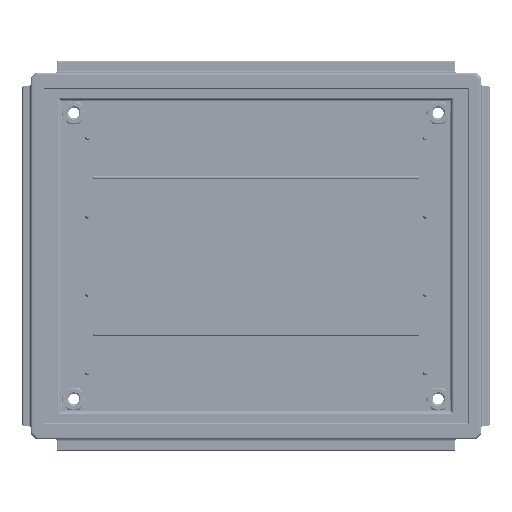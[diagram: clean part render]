
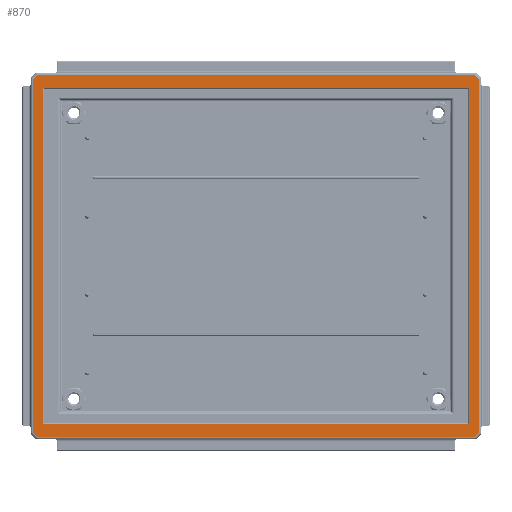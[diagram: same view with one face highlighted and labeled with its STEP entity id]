
A CAD part, front view. The second image highlights one B-rep face of the part: STEP entity #870.
In plain terms, the highlighted planar face has unit normal (0, -1, 0).
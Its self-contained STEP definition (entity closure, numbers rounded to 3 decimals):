
#870=ADVANCED_FACE('',(#28237,#28239),#28241,.T.);
#28237=FACE_BOUND('',#28238,.T.);
#28238=EDGE_LOOP('',(#99072,#99073,#99074,#99075,#99076,#99077,#99078,#99079));
#28239=FACE_BOUND('',#28240,.T.);
#28240=EDGE_LOOP('',(#99080,#99081,#99082,#99083));
#28241=PLANE('',#28242);
#28242=AXIS2_PLACEMENT_3D('',#28243,#28244,#28245);
#28243=CARTESIAN_POINT('',(262.2,0.,-564.9));
#28244=DIRECTION('',(0.,-1.,0.));
#28245=DIRECTION('',(0.,0.,1.));
#99072=ORIENTED_EDGE('',*,*,#140206,.F.);
#99073=ORIENTED_EDGE('',*,*,#140207,.F.);
#99074=ORIENTED_EDGE('',*,*,#140208,.T.);
#99075=ORIENTED_EDGE('',*,*,#140209,.T.);
#99076=ORIENTED_EDGE('',*,*,#140210,.F.);
#99077=ORIENTED_EDGE('',*,*,#140211,.T.);
#99078=ORIENTED_EDGE('',*,*,#140212,.T.);
#99079=ORIENTED_EDGE('',*,*,#140213,.F.);
#99080=ORIENTED_EDGE('',*,*,#140214,.T.);
#99081=ORIENTED_EDGE('',*,*,#140215,.T.);
#99082=ORIENTED_EDGE('',*,*,#140216,.F.);
#99083=ORIENTED_EDGE('',*,*,#140217,.T.);
#140206=EDGE_CURVE('',#161483,#161484,#161485,.T.);
#140207=EDGE_CURVE('',#161486,#161483,#161487,.T.);
#140208=EDGE_CURVE('',#161486,#161488,#161489,.T.);
#140209=EDGE_CURVE('',#161488,#161490,#161491,.T.);
#140210=EDGE_CURVE('',#161492,#161490,#161493,.T.);
#140211=EDGE_CURVE('',#161492,#161494,#161495,.T.);
#140212=EDGE_CURVE('',#161494,#161496,#161497,.T.);
#140213=EDGE_CURVE('',#161484,#161496,#161498,.T.);
#140214=EDGE_CURVE('',#161499,#161500,#161501,.T.);
#140215=EDGE_CURVE('',#161500,#161502,#161503,.T.);
#140216=EDGE_CURVE('',#161504,#161502,#161505,.T.);
#140217=EDGE_CURVE('',#161504,#161499,#161506,.T.);
#161483=VERTEX_POINT('',#198363);
#161484=VERTEX_POINT('',#198364);
#161485=LINE('',#198365,#198366);
#161486=VERTEX_POINT('',#198368);
#161487=LINE('',#198369,#198370);
#161488=VERTEX_POINT('',#198372);
#161489=LINE('',#198373,#198374);
#161490=VERTEX_POINT('',#198376);
#161491=LINE('',#198377,#198378);
#161492=VERTEX_POINT('',#198380);
#161493=LINE('',#198381,#198382);
#161494=VERTEX_POINT('',#198384);
#161495=LINE('',#198385,#198386);
#161496=VERTEX_POINT('',#198388);
#161497=LINE('',#198389,#198390);
#161498=LINE('',#198392,#198393);
#161499=VERTEX_POINT('',#198395);
#161500=VERTEX_POINT('',#198396);
#161501=LINE('',#198397,#198398);
#161502=VERTEX_POINT('',#198400);
#161503=LINE('',#198401,#198402);
#161504=VERTEX_POINT('',#198404);
#161505=LINE('',#198405,#198406);
#161506=LINE('',#198408,#198409);
#198363=CARTESIAN_POINT('',(166.716,0.,-3.1));
#198364=CARTESIAN_POINT('',(171.9,0.,-8.284));
#198365=CARTESIAN_POINT('',(166.716,0.,-3.1));
#198366=VECTOR('',#198367,1.);
#198367=DIRECTION('',(0.707,0.,-0.707));
#198368=CARTESIAN_POINT('',(-391.716,0.,-3.1));
#198369=CARTESIAN_POINT('',(-391.716,0.,-3.1));
#198370=VECTOR('',#198371,1.);
#198371=DIRECTION('',(1.,0.,0.));
#198372=CARTESIAN_POINT('',(-396.9,0.,-8.284));
#198373=CARTESIAN_POINT('',(-391.716,0.,-3.1));
#198374=VECTOR('',#198375,1.);
#198375=DIRECTION('',(-0.707,0.,-0.707));
#198376=CARTESIAN_POINT('',(-396.9,0.,-459.716));
#198377=CARTESIAN_POINT('',(-396.9,0.,-8.284));
#198378=VECTOR('',#198379,1.);
#198379=DIRECTION('',(0.,0.,-1.));
#198380=CARTESIAN_POINT('',(-391.716,0.,-464.9));
#198381=CARTESIAN_POINT('',(-391.716,0.,-464.9));
#198382=VECTOR('',#198383,1.);
#198383=DIRECTION('',(-0.707,0.,0.707));
#198384=CARTESIAN_POINT('',(166.716,0.,-464.9));
#198385=CARTESIAN_POINT('',(-391.716,0.,-464.9));
#198386=VECTOR('',#198387,1.);
#198387=DIRECTION('',(1.,0.,0.));
#198388=CARTESIAN_POINT('',(171.9,0.,-459.716));
#198389=CARTESIAN_POINT('',(166.716,0.,-464.9));
#198390=VECTOR('',#198391,1.);
#198391=DIRECTION('',(0.707,0.,0.707));
#198392=CARTESIAN_POINT('',(171.9,0.,-8.284));
#198393=VECTOR('',#198394,1.);
#198394=DIRECTION('',(0.,0.,-1.));
#198395=CARTESIAN_POINT('',(-383.591,0.,-19.899));
#198396=CARTESIAN_POINT('',(158.591,0.,-19.899));
#198397=CARTESIAN_POINT('',(-383.591,0.,-19.899));
#198398=VECTOR('',#198399,1.);
#198399=DIRECTION('',(1.,0.,0.));
#198400=CARTESIAN_POINT('',(158.591,0.,-448.101));
#198401=CARTESIAN_POINT('',(158.591,0.,-19.899));
#198402=VECTOR('',#198403,1.);
#198403=DIRECTION('',(0.,0.,-1.));
#198404=CARTESIAN_POINT('',(-383.591,0.,-448.101));
#198405=CARTESIAN_POINT('',(-383.591,0.,-448.101));
#198406=VECTOR('',#198407,1.);
#198407=DIRECTION('',(1.,0.,0.));
#198408=CARTESIAN_POINT('',(-383.591,0.,-448.101));
#198409=VECTOR('',#198410,1.);
#198410=DIRECTION('',(0.,0.,1.));
